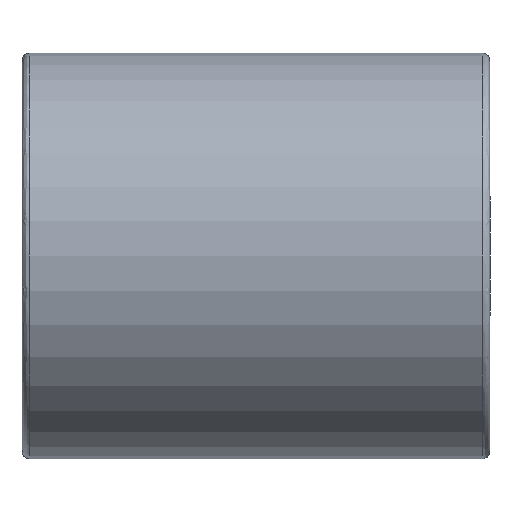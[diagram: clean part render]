
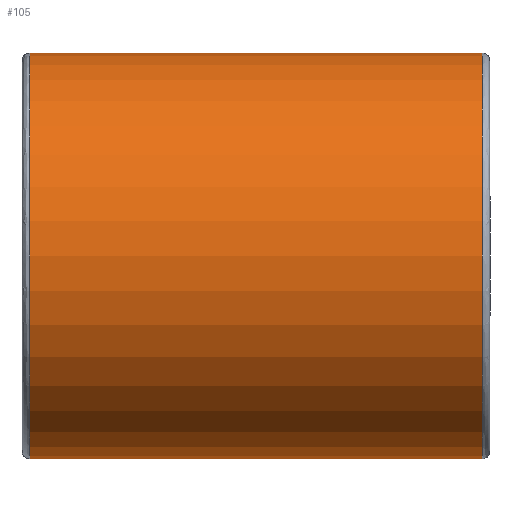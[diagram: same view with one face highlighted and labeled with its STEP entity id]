
A CAD part, left-side view. The second image highlights one B-rep face of the part: STEP entity #105.
In plain terms, the highlighted face is a revolution surface.
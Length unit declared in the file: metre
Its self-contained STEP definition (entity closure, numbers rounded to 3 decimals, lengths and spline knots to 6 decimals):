
#105 = ADVANCED_FACE( '', ( #197 ), #198, .F. );
#197 = FACE_OUTER_BOUND( '', #1193, .T. );
#198 = SURFACE_OF_REVOLUTION( '', #1194, #1195 );
#1193 = EDGE_LOOP( '', ( #1636, #1637, #1638, #1639 ) );
#1194 = B_SPLINE_CURVE_WITH_KNOTS( '', 1, ( #1640, #1641 ), .UNSPECIFIED., .F., .F., ( 2, 2 ), ( -10000., 10000. ), .UNSPECIFIED. );
#1195 = AXIS1_PLACEMENT( '', #1642, #1643 );
#1636 = ORIENTED_EDGE( '', *, *, #1999, .F. );
#1637 = ORIENTED_EDGE( '', *, *, #2007, .F. );
#1638 = ORIENTED_EDGE( '', *, *, #2008, .F. );
#1639 = ORIENTED_EDGE( '', *, *, #2005, .F. );
#1640 = CARTESIAN_POINT( '', ( 0., 10000.0295, -0.013 ) );
#1641 = CARTESIAN_POINT( '', ( 0., -9999.9705, -0.013 ) );
#1642 = CARTESIAN_POINT( '', ( 0., 0.03, 0. ) );
#1643 = DIRECTION( '', ( 0., 1., 0. ) );
#1999 = EDGE_CURVE( '', #2255, #2253, #2257, .F. );
#2005 = EDGE_CURVE( '', #2253, #2265, #2266, .T. );
#2007 = EDGE_CURVE( '', #2267, #2255, #2269, .F. );
#2008 = EDGE_CURVE( '', #2265, #2267, #2270, .T. );
#2253 = VERTEX_POINT( '', #4320 );
#2255 = VERTEX_POINT( '', #4332 );
#2257 = CIRCLE( '', #4344, 0.013 );
#2265 = VERTEX_POINT( '', #4372 );
#2266 = LINE( '', #4373, #4374 );
#2267 = VERTEX_POINT( '', #4375 );
#2269 = LINE( '', #4377, #4378 );
#2270 = CIRCLE( '', #4379, 0.013 );
#4320 = CARTESIAN_POINT( '', ( 0., 0.0295, 0.013 ) );
#4332 = CARTESIAN_POINT( '', ( 0., 0.0295, -0.013 ) );
#4344 = AXIS2_PLACEMENT_3D( '', #4526, #4527, #4528 );
#4372 = CARTESIAN_POINT( '', ( 0., 0.0005, 0.013 ) );
#4373 = CARTESIAN_POINT( '', ( 0., 0.0295, 0.013 ) );
#4374 = VECTOR( '', #4538, 1. );
#4375 = CARTESIAN_POINT( '', ( 0., 0.0005, -0.013 ) );
#4377 = CARTESIAN_POINT( '', ( 0., 0.0295, -0.013 ) );
#4378 = VECTOR( '', #4542, 1. );
#4379 = AXIS2_PLACEMENT_3D( '', #4543, #4544, #4545 );
#4526 = CARTESIAN_POINT( '', ( 0., 0.0295, 0. ) );
#4527 = DIRECTION( '', ( 0., -1., 0. ) );
#4528 = DIRECTION( '', ( 0., 0., -1. ) );
#4538 = DIRECTION( '', ( 0., -1., 0. ) );
#4542 = DIRECTION( '', ( 0., -1., 0. ) );
#4543 = CARTESIAN_POINT( '', ( 0., 0.0005, 0. ) );
#4544 = DIRECTION( '', ( 0., -1., 0. ) );
#4545 = DIRECTION( '', ( 0., 0., -1. ) );
